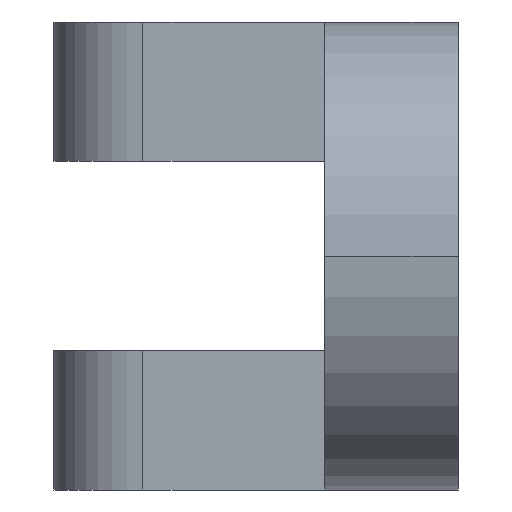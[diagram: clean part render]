
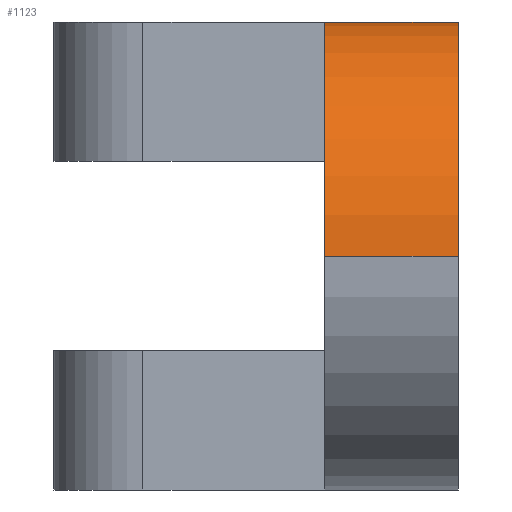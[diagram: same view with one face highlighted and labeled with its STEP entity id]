
A CAD part, left-side view. The second image highlights one B-rep face of the part: STEP entity #1123.
In plain terms, the highlighted cylindrical face has radius 5.334 mm (diameter 10.668 mm), a partial arc.
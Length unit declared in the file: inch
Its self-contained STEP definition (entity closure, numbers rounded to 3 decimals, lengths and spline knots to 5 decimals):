
#32 = DIRECTION ( 'NONE',  ( 0., -1., 0. ) ) ;
#46 = ORIENTED_EDGE ( 'NONE', *, *, #888, .F. ) ;
#99 = DIRECTION ( 'NONE',  ( 0., 1., 0. ) ) ;
#186 = ORIENTED_EDGE ( 'NONE', *, *, #486, .F. ) ;
#188 = EDGE_LOOP ( 'NONE', ( #426, #46, #186, #277 ) ) ;
#217 = VERTEX_POINT ( 'NONE', #352 ) ;
#221 = CARTESIAN_POINT ( 'NONE',  ( -0.617, 0., 0.21 ) ) ;
#245 = CARTESIAN_POINT ( 'NONE',  ( -0.827, 0., 0. ) ) ;
#277 = ORIENTED_EDGE ( 'NONE', *, *, #728, .F. ) ;
#310 = DIRECTION ( 'NONE',  ( 0., -1., 0. ) ) ;
#316 = CARTESIAN_POINT ( 'NONE',  ( -0.827, 0.12, 0. ) ) ;
#352 = CARTESIAN_POINT ( 'NONE',  ( -0.617, 0.12, 0.21 ) ) ;
#355 = DIRECTION ( 'NONE',  ( 0., 1., 0. ) ) ;
#356 = VERTEX_POINT ( 'NONE', #316 ) ;
#381 = AXIS2_PLACEMENT_3D ( 'NONE', #952, #32, #854 ) ;
#384 = EDGE_CURVE ( 'NONE', #217, #1080, #1023, .T. ) ;
#416 = VERTEX_POINT ( 'NONE', #245 ) ;
#426 = ORIENTED_EDGE ( 'NONE', *, *, #384, .F. ) ;
#486 = EDGE_CURVE ( 'NONE', #416, #356, #1162, .T. ) ;
#507 = DIRECTION ( 'NONE',  ( 0., 1., 0. ) ) ;
#561 = VECTOR ( 'NONE', #310, 39.37008 ) ;
#590 = AXIS2_PLACEMENT_3D ( 'NONE', #971, #507, #711 ) ;
#638 = FACE_OUTER_BOUND ( 'NONE', #188, .T. ) ;
#697 = VECTOR ( 'NONE', #355, 39.37008 ) ;
#711 = DIRECTION ( 'NONE',  ( 1., 0., 0. ) ) ;
#728 = EDGE_CURVE ( 'NONE', #1080, #416, #835, .T. ) ;
#803 = DIRECTION ( 'NONE',  ( 0., 0., 1. ) ) ;
#828 = AXIS2_PLACEMENT_3D ( 'NONE', #989, #99, #803 ) ;
#835 = CIRCLE ( 'NONE', #381, 0.21 ) ;
#854 = DIRECTION ( 'NONE',  ( -1., 0., 0. ) ) ;
#888 = EDGE_CURVE ( 'NONE', #356, #217, #1029, .T. ) ;
#952 = CARTESIAN_POINT ( 'NONE',  ( -0.617, 0., 0. ) ) ;
#971 = CARTESIAN_POINT ( 'NONE',  ( -0.617, 0.12, 0. ) ) ;
#989 = CARTESIAN_POINT ( 'NONE',  ( -0.617, 0., 0. ) ) ;
#1002 = CYLINDRICAL_SURFACE ( 'NONE', #828, 0.21 ) ;
#1023 = LINE ( 'NONE', #221, #561 ) ;
#1029 = CIRCLE ( 'NONE', #590, 0.21 ) ;
#1047 = CARTESIAN_POINT ( 'NONE',  ( -0.827, 0.12, 0. ) ) ;
#1080 = VERTEX_POINT ( 'NONE', #1121 ) ;
#1121 = CARTESIAN_POINT ( 'NONE',  ( -0.617, 0., 0.21 ) ) ;
#1123 = ADVANCED_FACE ( 'NONE', ( #638 ), #1002, .T. ) ;
#1162 = LINE ( 'NONE', #1047, #697 ) ;
